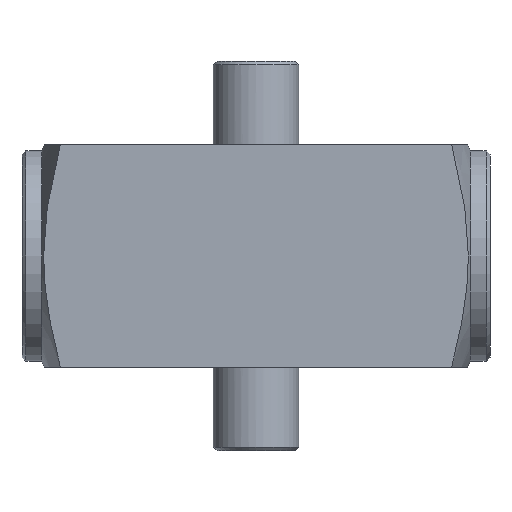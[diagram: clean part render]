
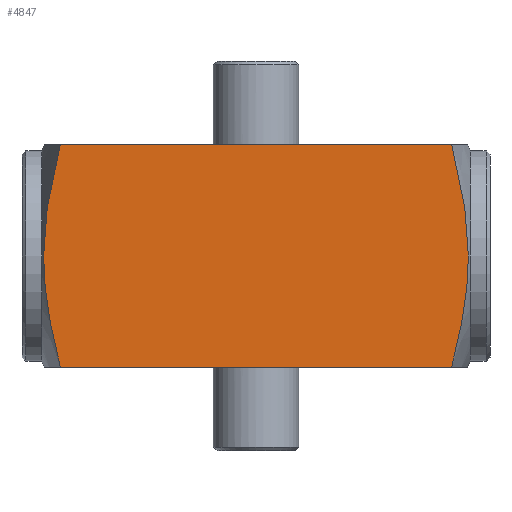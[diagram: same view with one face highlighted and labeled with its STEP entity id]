
A CAD part, front view. The second image highlights one B-rep face of the part: STEP entity #4847.
In plain terms, the highlighted planar face has unit normal (0, -1, 0).
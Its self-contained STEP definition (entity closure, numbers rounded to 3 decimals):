
#53=(
BOUNDED_CURVE()
B_SPLINE_CURVE(2,(#8534,#8535,#8536),.UNSPECIFIED.,.F.,.F.)
B_SPLINE_CURVE_WITH_KNOTS((3,3),(-25.4,-17.502),
 .UNSPECIFIED.)
CURVE()
GEOMETRIC_REPRESENTATION_ITEM()
RATIONAL_B_SPLINE_CURVE((5.257,6.346,6.346))
REPRESENTATION_ITEM('')
);
#54=(
BOUNDED_CURVE()
B_SPLINE_CURVE(2,(#8538,#8539,#8540,#8541),.UNSPECIFIED.,.F.,.F.)
B_SPLINE_CURVE_WITH_KNOTS((3,1,3),(9.701,15.052,17.669),
 .UNSPECIFIED.)
CURVE()
GEOMETRIC_REPRESENTATION_ITEM()
RATIONAL_B_SPLINE_CURVE((5.303,6.04,6.401,
6.401))
REPRESENTATION_ITEM('')
);
#55=(
BOUNDED_CURVE()
B_SPLINE_CURVE(2,(#8543,#8544,#8545),.UNSPECIFIED.,.F.,.F.)
B_SPLINE_CURVE_WITH_KNOTS((3,3),(17.669,25.636),
 .UNSPECIFIED.)
CURVE()
GEOMETRIC_REPRESENTATION_ITEM()
RATIONAL_B_SPLINE_CURVE((6.401,6.401,5.303))
REPRESENTATION_ITEM('')
);
#56=(
BOUNDED_CURVE()
B_SPLINE_CURVE(2,(#8548,#8549,#8550,#8551),.UNSPECIFIED.,.F.,.F.)
B_SPLINE_CURVE_WITH_KNOTS((3,1,3),(-17.502,-14.821,
-9.603),.UNSPECIFIED.)
CURVE()
GEOMETRIC_REPRESENTATION_ITEM()
RATIONAL_B_SPLINE_CURVE((6.346,6.346,5.976,
5.257))
REPRESENTATION_ITEM('')
);
#416=PLANE('',#5163);
#672=FACE_OUTER_BOUND('',#957,.T.);
#957=EDGE_LOOP('',(#4264,#4265,#4266,#4267,#4268,#4269));
#1338=LINE('',#8181,#1763);
#1385=LINE('',#8547,#1810);
#1763=VECTOR('',#5931,10.);
#1810=VECTOR('',#6168,10.);
#2247=VERTEX_POINT('',#8171);
#2249=VERTEX_POINT('',#8177);
#2325=VERTEX_POINT('',#8533);
#2326=VERTEX_POINT('',#8537);
#2327=VERTEX_POINT('',#8542);
#2328=VERTEX_POINT('',#8546);
#2855=EDGE_CURVE('',#2249,#2247,#1338,.T.);
#2978=EDGE_CURVE('',#2247,#2325,#53,.T.);
#2979=EDGE_CURVE('',#2326,#2249,#54,.F.);
#2980=EDGE_CURVE('',#2327,#2326,#55,.F.);
#2981=EDGE_CURVE('',#2327,#2328,#1385,.T.);
#2982=EDGE_CURVE('',#2325,#2328,#56,.T.);
#4264=ORIENTED_EDGE('',*,*,#2978,.F.);
#4265=ORIENTED_EDGE('',*,*,#2855,.F.);
#4266=ORIENTED_EDGE('',*,*,#2979,.F.);
#4267=ORIENTED_EDGE('',*,*,#2980,.F.);
#4268=ORIENTED_EDGE('',*,*,#2981,.T.);
#4269=ORIENTED_EDGE('',*,*,#2982,.F.);
#4847=ADVANCED_FACE('',(#672),#416,.T.);
#5163=AXIS2_PLACEMENT_3D('',#8532,#6166,#6167);
#5931=DIRECTION('',(1.,0.,0.));
#6166=DIRECTION('center_axis',(0.,-1.,0.));
#6167=DIRECTION('ref_axis',(0.,0.,-1.));
#6168=DIRECTION('',(1.,0.,0.));
#8171=CARTESIAN_POINT('',(18.532,-30.346,14.25));
#8177=CARTESIAN_POINT('',(-31.625,-30.346,14.25));
#8181=CARTESIAN_POINT('',(-36.546,-30.346,14.25));
#8532=CARTESIAN_POINT('Origin',(-36.546,-30.346,-14.25));
#8533=CARTESIAN_POINT('',(20.681,-30.346,0.));
#8534=CARTESIAN_POINT('Ctrl Pts',(18.532,-30.346,14.25));
#8535=CARTESIAN_POINT('Ctrl Pts',(20.681,-30.346,5.903));
#8536=CARTESIAN_POINT('Ctrl Pts',(20.681,-30.346,0.));
#8537=CARTESIAN_POINT('',(-33.773,-30.346,0.));
#8538=CARTESIAN_POINT('Ctrl Pts',(-31.625,-30.346,14.25));
#8539=CARTESIAN_POINT('Ctrl Pts',(-33.154,-30.346,8.309));
#8540=CARTESIAN_POINT('Ctrl Pts',(-33.773,-30.346,1.938));
#8541=CARTESIAN_POINT('Ctrl Pts',(-33.773,-30.346,0.));
#8542=CARTESIAN_POINT('',(-31.625,-30.346,-14.25));
#8543=CARTESIAN_POINT('Ctrl Pts',(-33.773,-30.346,0.));
#8544=CARTESIAN_POINT('Ctrl Pts',(-33.773,-30.346,-5.903));
#8545=CARTESIAN_POINT('Ctrl Pts',(-31.625,-30.346,-14.25));
#8546=CARTESIAN_POINT('',(18.532,-30.346,-14.25));
#8547=CARTESIAN_POINT('',(-36.546,-30.346,-14.25));
#8548=CARTESIAN_POINT('Ctrl Pts',(20.681,-30.346,0.));
#8549=CARTESIAN_POINT('Ctrl Pts',(20.681,-30.346,-2.003));
#8550=CARTESIAN_POINT('Ctrl Pts',(20.039,-30.346,-8.394));
#8551=CARTESIAN_POINT('Ctrl Pts',(18.532,-30.346,-14.25));
